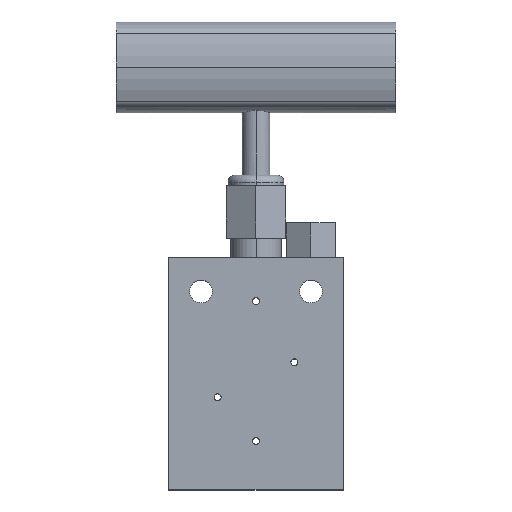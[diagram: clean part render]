
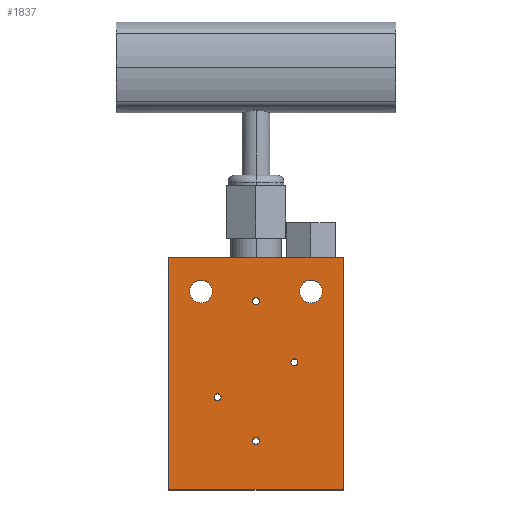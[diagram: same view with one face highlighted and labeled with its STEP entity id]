
A CAD part, top view. The second image highlights one B-rep face of the part: STEP entity #1837.
In plain terms, the highlighted planar face has unit normal (0, 0, 1).
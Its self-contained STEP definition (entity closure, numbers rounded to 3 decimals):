
#24 = CARTESIAN_POINT ( 'NONE',  ( 15.7, 21.3, 10. ) ) ;
#43 = VECTOR ( 'NONE', #3721, 1000. ) ;
#77 = FACE_BOUND ( 'NONE', #3706, .T. ) ;
#121 = ORIENTED_EDGE ( 'NONE', *, *, #1091, .T. ) ;
#126 = CARTESIAN_POINT ( 'NONE',  ( 11., 1., 10. ) ) ;
#139 = EDGE_CURVE ( 'NONE', #839, #2150, #1172, .T. ) ;
#152 = VERTEX_POINT ( 'NONE', #2353 ) ;
#204 = DIRECTION ( 'NONE',  ( -1., 0., 0. ) ) ;
#218 = VERTEX_POINT ( 'NONE', #1897 ) ;
#255 = CIRCLE ( 'NONE', #2671, 1. ) ;
#261 = EDGE_CURVE ( 'NONE', #218, #3688, #3437, .T. ) ;
#289 = VERTEX_POINT ( 'NONE', #2399 ) ;
#294 = DIRECTION ( 'NONE',  ( 1., 0., 0. ) ) ;
#304 = EDGE_CURVE ( 'NONE', #2762, #152, #2180, .T. ) ;
#305 = EDGE_CURVE ( 'NONE', #818, #1322, #2841, .T. ) ;
#313 = CARTESIAN_POINT ( 'NONE',  ( -25., -35.5, 10. ) ) ;
#331 = DIRECTION ( 'NONE',  ( -1., 0., 0. ) ) ;
#333 = DIRECTION ( 'NONE',  ( 1., 0., 0. ) ) ;
#355 = EDGE_LOOP ( 'NONE', ( #646, #1009 ) ) ;
#360 = PLANE ( 'NONE',  #2038 ) ;
#415 = CARTESIAN_POINT ( 'NONE',  ( -15.7, 21.3, 10. ) ) ;
#457 = CARTESIAN_POINT ( 'NONE',  ( -10., -9., 10. ) ) ;
#476 = EDGE_CURVE ( 'NONE', #289, #1176, #2553, .T. ) ;
#484 = DIRECTION ( 'NONE',  ( 0., 0., 1. ) ) ;
#494 = EDGE_LOOP ( 'NONE', ( #2723, #2190, #1817, #121 ) ) ;
#498 = DIRECTION ( 'NONE',  ( 1., 0., 0. ) ) ;
#518 = VERTEX_POINT ( 'NONE', #841 ) ;
#542 = AXIS2_PLACEMENT_3D ( 'NONE', #2440, #3026, #3585 ) ;
#570 = LINE ( 'NONE', #1423, #3198 ) ;
#575 = CARTESIAN_POINT ( 'NONE',  ( -1., -21.5, 10. ) ) ;
#597 = CIRCLE ( 'NONE', #3384, 3.25 ) ;
#599 = CARTESIAN_POINT ( 'NONE',  ( 0., 0., 10. ) ) ;
#616 = AXIS2_PLACEMENT_3D ( 'NONE', #3115, #1998, #2850 ) ;
#617 = CARTESIAN_POINT ( 'NONE',  ( 18.95, 21.3, 10. ) ) ;
#634 = CARTESIAN_POINT ( 'NONE',  ( -11., -9., 10. ) ) ;
#640 = DIRECTION ( 'NONE',  ( 0., 0., 1. ) ) ;
#646 = ORIENTED_EDGE ( 'NONE', *, *, #476, .F. ) ;
#705 = DIRECTION ( 'NONE',  ( 0., 0., 1. ) ) ;
#730 = EDGE_LOOP ( 'NONE', ( #1296, #821 ) ) ;
#751 = VERTEX_POINT ( 'NONE', #3663 ) ;
#774 = FACE_BOUND ( 'NONE', #730, .T. ) ;
#818 = VERTEX_POINT ( 'NONE', #575 ) ;
#821 = ORIENTED_EDGE ( 'NONE', *, *, #2996, .F. ) ;
#825 = AXIS2_PLACEMENT_3D ( 'NONE', #634, #2379, #294 ) ;
#839 = VERTEX_POINT ( 'NONE', #313 ) ;
#841 = CARTESIAN_POINT ( 'NONE',  ( -12., -9., 10. ) ) ;
#854 = DIRECTION ( 'NONE',  ( 1., 0., 0. ) ) ;
#901 = EDGE_LOOP ( 'NONE', ( #2290, #3725 ) ) ;
#924 = EDGE_CURVE ( 'NONE', #518, #2435, #2334, .T. ) ;
#926 = AXIS2_PLACEMENT_3D ( 'NONE', #2791, #484, #498 ) ;
#1009 = ORIENTED_EDGE ( 'NONE', *, *, #3491, .F. ) ;
#1091 = EDGE_CURVE ( 'NONE', #3372, #2628, #2240, .T. ) ;
#1102 = ORIENTED_EDGE ( 'NONE', *, *, #2712, .F. ) ;
#1136 = EDGE_CURVE ( 'NONE', #152, #2762, #597, .T. ) ;
#1172 = LINE ( 'NONE', #2376, #1784 ) ;
#1176 = VERTEX_POINT ( 'NONE', #1498 ) ;
#1177 = DIRECTION ( 'NONE',  ( 0., 0., 1. ) ) ;
#1191 = EDGE_CURVE ( 'NONE', #2150, #3372, #570, .T. ) ;
#1213 = DIRECTION ( 'NONE',  ( 0., 1., 0. ) ) ;
#1245 = DIRECTION ( 'NONE',  ( 0., 0., 1. ) ) ;
#1279 = DIRECTION ( 'NONE',  ( 0., 0., 1. ) ) ;
#1296 = ORIENTED_EDGE ( 'NONE', *, *, #261, .F. ) ;
#1313 = ORIENTED_EDGE ( 'NONE', *, *, #304, .F. ) ;
#1322 = VERTEX_POINT ( 'NONE', #3524 ) ;
#1362 = DIRECTION ( 'NONE',  ( 0., 0., 1. ) ) ;
#1410 = CIRCLE ( 'NONE', #3042, 1. ) ;
#1413 = CIRCLE ( 'NONE', #1715, 3.25 ) ;
#1423 = CARTESIAN_POINT ( 'NONE',  ( 25., 31., 10. ) ) ;
#1471 = FACE_BOUND ( 'NONE', #1517, .T. ) ;
#1498 = CARTESIAN_POINT ( 'NONE',  ( 10., 1., 10. ) ) ;
#1506 = DIRECTION ( 'NONE',  ( 0., 0., 1. ) ) ;
#1517 = EDGE_LOOP ( 'NONE', ( #1313, #2935 ) ) ;
#1568 = DIRECTION ( 'NONE',  ( 0., 0., 1. ) ) ;
#1622 = CARTESIAN_POINT ( 'NONE',  ( -25., 31., 10. ) ) ;
#1651 = ORIENTED_EDGE ( 'NONE', *, *, #305, .F. ) ;
#1665 = ORIENTED_EDGE ( 'NONE', *, *, #924, .F. ) ;
#1696 = CIRCLE ( 'NONE', #2910, 1. ) ;
#1699 = DIRECTION ( 'NONE',  ( -1., 0., 0. ) ) ;
#1715 = AXIS2_PLACEMENT_3D ( 'NONE', #3403, #1362, #1699 ) ;
#1724 = CARTESIAN_POINT ( 'NONE',  ( -1., 18.5, 10. ) ) ;
#1737 = EDGE_CURVE ( 'NONE', #2956, #751, #1413, .T. ) ;
#1784 = VECTOR ( 'NONE', #333, 1000. ) ;
#1816 = EDGE_CURVE ( 'NONE', #2628, #839, #1987, .T. ) ;
#1817 = ORIENTED_EDGE ( 'NONE', *, *, #1191, .T. ) ;
#1818 = AXIS2_PLACEMENT_3D ( 'NONE', #2460, #1245, #3066 ) ;
#1837 = ADVANCED_FACE ( 'NONE', ( #774, #2532, #77, #3519, #1471, #2629, #2345 ), #360, .T. ) ;
#1897 = CARTESIAN_POINT ( 'NONE',  ( 1., 18.5, 10. ) ) ;
#1987 = LINE ( 'NONE', #2573, #43 ) ;
#1998 = DIRECTION ( 'NONE',  ( 0., 0., 1. ) ) ;
#2038 = AXIS2_PLACEMENT_3D ( 'NONE', #599, #640, #2326 ) ;
#2123 = CARTESIAN_POINT ( 'NONE',  ( 0., -21.5, 10. ) ) ;
#2125 = CIRCLE ( 'NONE', #3040, 3.25 ) ;
#2150 = VERTEX_POINT ( 'NONE', #2552 ) ;
#2168 = EDGE_LOOP ( 'NONE', ( #2507, #1665 ) ) ;
#2180 = CIRCLE ( 'NONE', #2964, 3.25 ) ;
#2190 = ORIENTED_EDGE ( 'NONE', *, *, #139, .T. ) ;
#2240 = LINE ( 'NONE', #1622, #2942 ) ;
#2290 = ORIENTED_EDGE ( 'NONE', *, *, #1737, .F. ) ;
#2298 = DIRECTION ( 'NONE',  ( 1., 0., 0. ) ) ;
#2313 = CARTESIAN_POINT ( 'NONE',  ( -25., 31., 10. ) ) ;
#2326 = DIRECTION ( 'NONE',  ( 1., 0., 0. ) ) ;
#2334 = CIRCLE ( 'NONE', #825, 1. ) ;
#2345 = FACE_OUTER_BOUND ( 'NONE', #494, .T. ) ;
#2353 = CARTESIAN_POINT ( 'NONE',  ( -18.95, 21.3, 10. ) ) ;
#2360 = CARTESIAN_POINT ( 'NONE',  ( 0., 18.5, 10. ) ) ;
#2376 = CARTESIAN_POINT ( 'NONE',  ( -25., -35.5, 10. ) ) ;
#2379 = DIRECTION ( 'NONE',  ( 0., 0., 1. ) ) ;
#2399 = CARTESIAN_POINT ( 'NONE',  ( 12., 1., 10. ) ) ;
#2428 = DIRECTION ( 'NONE',  ( 1., 0., 0. ) ) ;
#2435 = VERTEX_POINT ( 'NONE', #457 ) ;
#2440 = CARTESIAN_POINT ( 'NONE',  ( 0., -21.5, 10. ) ) ;
#2455 = DIRECTION ( 'NONE',  ( 1., 0., 0. ) ) ;
#2460 = CARTESIAN_POINT ( 'NONE',  ( 0., 18.5, 10. ) ) ;
#2507 = ORIENTED_EDGE ( 'NONE', *, *, #3611, .F. ) ;
#2532 = FACE_BOUND ( 'NONE', #2168, .T. ) ;
#2552 = CARTESIAN_POINT ( 'NONE',  ( 25., -35.5, 10. ) ) ;
#2553 = CIRCLE ( 'NONE', #616, 1. ) ;
#2573 = CARTESIAN_POINT ( 'NONE',  ( -25., 31., 10. ) ) ;
#2628 = VERTEX_POINT ( 'NONE', #2313 ) ;
#2629 = FACE_BOUND ( 'NONE', #901, .T. ) ;
#2671 = AXIS2_PLACEMENT_3D ( 'NONE', #2123, #705, #2428 ) ;
#2693 = EDGE_CURVE ( 'NONE', #751, #2956, #2125, .T. ) ;
#2712 = EDGE_CURVE ( 'NONE', #1322, #818, #255, .T. ) ;
#2723 = ORIENTED_EDGE ( 'NONE', *, *, #1816, .T. ) ;
#2726 = DIRECTION ( 'NONE',  ( 1., 0., 0. ) ) ;
#2762 = VERTEX_POINT ( 'NONE', #3371 ) ;
#2791 = CARTESIAN_POINT ( 'NONE',  ( -11., -9., 10. ) ) ;
#2841 = CIRCLE ( 'NONE', #542, 1. ) ;
#2850 = DIRECTION ( 'NONE',  ( 1., 0., 0. ) ) ;
#2890 = CARTESIAN_POINT ( 'NONE',  ( 25., 31., 10. ) ) ;
#2902 = CARTESIAN_POINT ( 'NONE',  ( -15.7, 21.3, 10. ) ) ;
#2910 = AXIS2_PLACEMENT_3D ( 'NONE', #2360, #1506, #2298 ) ;
#2935 = ORIENTED_EDGE ( 'NONE', *, *, #1136, .F. ) ;
#2942 = VECTOR ( 'NONE', #204, 1000. ) ;
#2956 = VERTEX_POINT ( 'NONE', #617 ) ;
#2964 = AXIS2_PLACEMENT_3D ( 'NONE', #415, #1568, #2726 ) ;
#2996 = EDGE_CURVE ( 'NONE', #3688, #218, #1696, .T. ) ;
#3026 = DIRECTION ( 'NONE',  ( 0., 0., 1. ) ) ;
#3040 = AXIS2_PLACEMENT_3D ( 'NONE', #24, #1177, #331 ) ;
#3042 = AXIS2_PLACEMENT_3D ( 'NONE', #126, #1279, #2455 ) ;
#3066 = DIRECTION ( 'NONE',  ( 1., 0., 0. ) ) ;
#3115 = CARTESIAN_POINT ( 'NONE',  ( 11., 1., 10. ) ) ;
#3198 = VECTOR ( 'NONE', #1213, 1000. ) ;
#3215 = CIRCLE ( 'NONE', #926, 1. ) ;
#3371 = CARTESIAN_POINT ( 'NONE',  ( -12.45, 21.3, 10. ) ) ;
#3372 = VERTEX_POINT ( 'NONE', #2890 ) ;
#3384 = AXIS2_PLACEMENT_3D ( 'NONE', #2902, #3484, #854 ) ;
#3403 = CARTESIAN_POINT ( 'NONE',  ( 15.7, 21.3, 10. ) ) ;
#3437 = CIRCLE ( 'NONE', #1818, 1. ) ;
#3484 = DIRECTION ( 'NONE',  ( 0., 0., 1. ) ) ;
#3491 = EDGE_CURVE ( 'NONE', #1176, #289, #1410, .T. ) ;
#3519 = FACE_BOUND ( 'NONE', #355, .T. ) ;
#3524 = CARTESIAN_POINT ( 'NONE',  ( 1., -21.5, 10. ) ) ;
#3585 = DIRECTION ( 'NONE',  ( 1., 0., 0. ) ) ;
#3611 = EDGE_CURVE ( 'NONE', #2435, #518, #3215, .T. ) ;
#3663 = CARTESIAN_POINT ( 'NONE',  ( 12.45, 21.3, 10. ) ) ;
#3688 = VERTEX_POINT ( 'NONE', #1724 ) ;
#3706 = EDGE_LOOP ( 'NONE', ( #1102, #1651 ) ) ;
#3721 = DIRECTION ( 'NONE',  ( 0., -1., 0. ) ) ;
#3725 = ORIENTED_EDGE ( 'NONE', *, *, #2693, .F. ) ;
